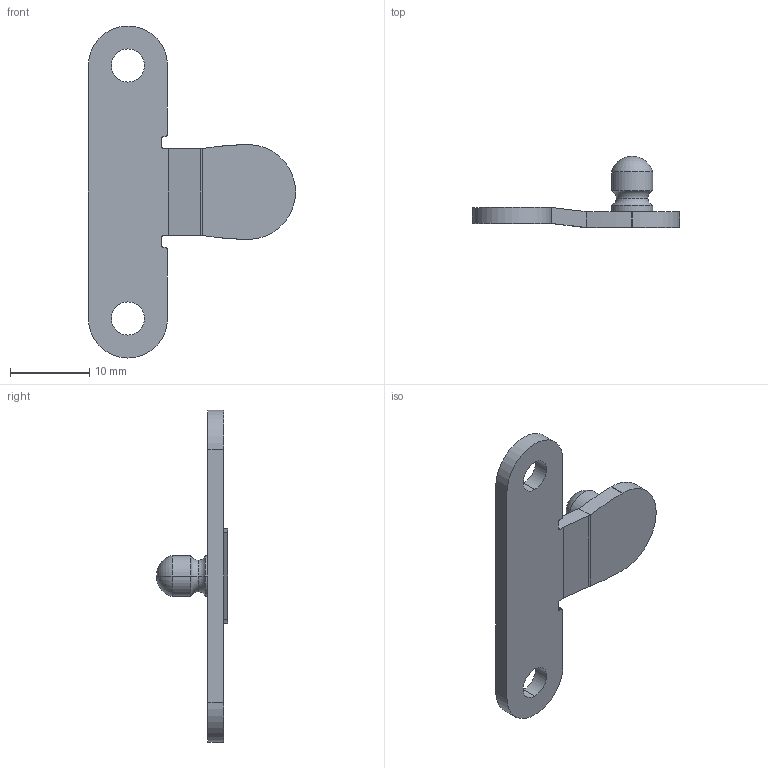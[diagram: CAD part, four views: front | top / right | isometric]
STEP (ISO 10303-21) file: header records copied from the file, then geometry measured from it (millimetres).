
FILE_DESCRIPTION (( 'STEP AP203' ), '1' );
FILE_NAME ('Anschraubwinkel_T-105_Alurahmen_D2659523125~0.step', '2012-05-04T06:19:10', ( 'admin' ), ( 'Hewlett-Packard Company' ), 'SwSTEP 2.0', 'SolidWorks 2011', '' );
FILE_SCHEMA (( 'CONFIG_CONTROL_DESIGN' ));
Length unit declared in the file: millimetre
Products named in the file (1): Anschraubwinkel_T-105_Alurahmen_D2659523125~0
Bounding box: 26.2 x 9 x 42 mm (x, y, z)
Volume: 1202.6 mm3; surface area: 1484.4 mm2
Topology: 1 solids, 1 shells, 47 faces, 127 edges, 81 vertices
Faces by surface type: cylinder 26, plane 15, torus 6
Entity records: 1570 total; most frequent: DIRECTION 273, CARTESIAN_POINT 272, ORIENTED_EDGE 250, EDGE_CURVE 125, AXIS2_PLACEMENT_3D 106, VERTEX_POINT 81, LINE 61, VECTOR 61
